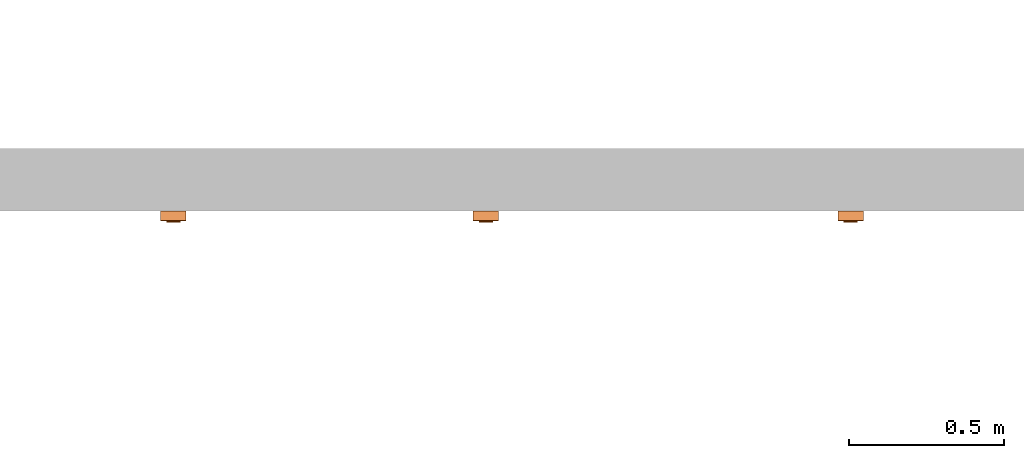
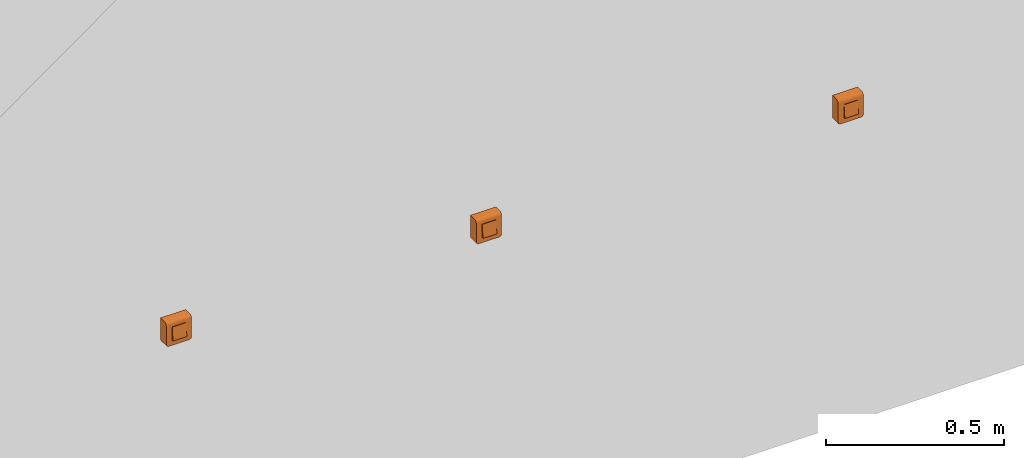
# One storey, part 128 of 197: 3 proxies.
"""IFC2X3 building model written with IfcOpenShell, lengths in metres."""

from ifc_helpers import new_model, entity, si_unit, converted_unit, direction, frame, origin, place, context, subcontext, project, spatial, faceted_brep, source, transform, mapped, material, material_list, type_object, type_shapes, element, save


model = new_model("IFC2X3")

# Units and contexts
model_context = context("Model", 3, precision=1e-05, world=origin(), true_north=direction((6.123031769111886e-17, 1.0)))
body_context = subcontext(model_context, "Body", "Model", "MODEL_VIEW")
ifc_project = project(units=[si_unit("LENGTHUNIT", "METRE"), converted_unit("PLANEANGLEUNIT", "DEGREE", entity("IfcPlaneAngleMeasure", 0.017453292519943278), si_unit("PLANEANGLEUNIT", "RADIAN"), dimensions=[0, 0, 0, 0, 0, 0, 0]), si_unit("AREAUNIT", "SQUARE_METRE")], contexts=[model_context])

# Site, building, storey
site_placement = place(None, origin())
site = spatial("IfcSite", under=ifc_project, at=site_placement, Name="Default", CompositionType="ELEMENT")
building_placement = place(site_placement, origin())
building = spatial("IfcBuilding", under=site, at=building_placement, CompositionType="ELEMENT")
storey_placement = place(building_placement, origin())
storey = spatial("IfcBuildingStorey", under=building, at=storey_placement, Name="Niveau 0", CompositionType="ELEMENT", Elevation=0.0)

# Proxies
ifc_material_1 = material(Name="BETCE-DOITGT-BLANC")
ifc_material_2 = material(Name="BETCE-CADRE-BLANC")
ifc_material_3 = material(Name="BETCE-ENJOLIVEUR-BLANC")
ifc_material_list = material_list([ifc_material_1, ifc_material_2, ifc_material_3])
building_element_proxy_type_1 = type_object("IfcBuildingElementProxyType", Name="Interrupteur double saillie:Double bouton poussoir", PredefinedType="NOTDEFINED", material=ifc_material_list)
shared_shape_1 = source(origin(), body_context, "Body", "Brep", [
    faceted_brep([(0.0, -0.033499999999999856, 0.022499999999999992), (0.0, -0.03799999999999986, -0.022500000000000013), (0.022499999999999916, -0.037999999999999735, -0.022500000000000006), (0.022499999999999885, -0.03349999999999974, 0.022499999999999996), (0.0, -0.02299999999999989, -0.022500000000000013), (0.0, -0.02299999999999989, 0.022499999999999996), (0.022499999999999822, -0.02299999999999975, 0.022499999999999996), (0.022499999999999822, -0.02299999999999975, -0.022500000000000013)], [[[0, 1, 2, 3]], [[4, 5, 6, 7]], [[5, 4, 1, 0]], [[6, 5, 0, 3]], [[7, 6, 3, 2]], [[4, 7, 2, 1]]]),
    faceted_brep([(0.04099999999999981, -0.023, 0.04092306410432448), (-0.04100000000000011, -0.023000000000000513, 0.04092306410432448), (-0.04100000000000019, -0.023000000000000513, -0.03299999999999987), (-0.040727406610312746, -0.023000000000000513, -0.03507055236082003), (-0.039928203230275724, -0.023000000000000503, -0.03699999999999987), (-0.038656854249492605, -0.0230000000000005, -0.038656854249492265), (-0.037000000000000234, -0.023000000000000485, -0.03992820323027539), (-0.0350705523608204, -0.023000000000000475, -0.04072740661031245), (-0.03300000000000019, -0.02300000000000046, -0.040999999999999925), (0.032999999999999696, -0.02300000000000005, -0.040999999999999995), (0.03507055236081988, -0.023000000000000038, -0.04072740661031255), (0.03699999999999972, -0.023000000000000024, -0.03992820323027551), (0.0386568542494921, -0.023000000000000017, -0.0386568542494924), (0.03992820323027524, -0.023000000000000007, -0.037000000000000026), (0.040727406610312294, -0.023000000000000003, -0.035070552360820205), (0.04099999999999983, -0.023, -0.032999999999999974), (-0.041000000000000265, 0.0, -0.03299999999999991), (-0.04100000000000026, 0.0, 0.04092306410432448), (0.04099999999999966, 0.0, 0.04092306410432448), (0.04099999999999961, 0.0, -0.03299999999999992), (0.04072740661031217, 0.0, -0.0350705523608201), (0.03992820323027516, 0.0, -0.036999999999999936), (0.038656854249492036, 0.0, -0.038656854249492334), (0.03699999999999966, 0.0, -0.039928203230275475), (0.03507055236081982, 0.0, -0.040727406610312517), (0.032999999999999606, 0.0, -0.04099999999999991), (-0.033000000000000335, 0.0, -0.040999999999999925), (-0.035070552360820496, 0.0, -0.04072740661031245), (-0.03700000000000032, 0.0, -0.039928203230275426), (-0.0386568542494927, 0.0, -0.0386568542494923), (-0.03992820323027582, 0.0, -0.036999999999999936), (-0.04072740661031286, 0.0, -0.035070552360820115)], [[[0, 1, 2, 3, 4, 5, 6, 7, 8, 9, 10, 11, 12, 13, 14, 15]], [[16, 17, 18, 19, 20, 21, 22, 23, 24, 25, 26, 27, 28, 29, 30, 31]], [[2, 1, 17, 16]], [[9, 8, 26, 25]], [[0, 15, 19, 18]], [[1, 0, 18, 17]], [[26, 8, 7, 27]], [[27, 7, 6, 28]], [[28, 6, 5, 29]], [[30, 4, 3, 31]], [[31, 3, 2, 16]], [[29, 5, 4, 30]], [[20, 19, 15, 14]], [[21, 20, 14, 13]], [[22, 21, 13, 12]], [[23, 22, 12, 11]], [[24, 23, 11, 10]], [[25, 24, 10, 9]]]),
    faceted_brep([(-0.022500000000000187, -0.02299999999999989, -0.022500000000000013), (-0.022500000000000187, -0.02299999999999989, 0.022499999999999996), (0.0, -0.02299999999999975, 0.022499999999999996), (0.0, -0.02299999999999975, -0.022500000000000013), (-0.022500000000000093, -0.037999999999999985, -0.022500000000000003), (-0.02250000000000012, -0.03349999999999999, 0.022499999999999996), (0.0, -0.03349999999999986, 0.022499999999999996), (0.0, -0.037999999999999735, -0.022500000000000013)], [[[0, 1, 2, 3]], [[1, 0, 4, 5]], [[2, 1, 5, 6]], [[3, 2, 6, 7]], [[0, 3, 7, 4]], [[5, 4, 7, 6]]]),
    faceted_brep([(0.04099999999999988, -0.03199999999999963, -0.03299999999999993), (0.04099999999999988, -0.03199999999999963, 0.0319999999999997), (0.022499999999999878, -0.031999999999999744, -0.022500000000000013), (0.032999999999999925, -0.03199999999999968, -0.040999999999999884), (0.03507055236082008, -0.031999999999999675, -0.040727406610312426), (0.040727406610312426, -0.03199999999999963, -0.03507055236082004), (0.02249999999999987, -0.031999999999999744, 0.022499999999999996), (-0.022500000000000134, -0.03200000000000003, 0.022499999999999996), (-0.04100000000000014, -0.03200000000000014, 0.0319999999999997), (-0.022500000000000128, -0.03200000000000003, -0.022500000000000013), (-0.04100000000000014, -0.03200000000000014, -0.03299999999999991), (-0.03300000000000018, -0.03200000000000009, -0.04099999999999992), (-0.03507055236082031, -0.032000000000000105, -0.04072740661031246), (-0.040727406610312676, -0.03200000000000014, -0.03507055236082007), (-0.03700000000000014, -0.03200000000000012, -0.03992820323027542), (-0.039928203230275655, -0.03200000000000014, -0.036999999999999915), (-0.038656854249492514, -0.032000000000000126, -0.03865685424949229), (0.036999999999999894, -0.03199999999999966, -0.039928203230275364), (0.03992820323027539, -0.03199999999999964, -0.03699999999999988), (0.038656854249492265, -0.03199999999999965, -0.038656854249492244), (-0.04100000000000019, -0.02300000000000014, -0.03299999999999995), (-0.041000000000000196, -0.02300000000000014, 0.041000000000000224), (-0.02250000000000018, -0.023000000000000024, 0.022499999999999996), (-0.02250000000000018, -0.023000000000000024, -0.022500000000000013), (-0.03300000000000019, -0.023000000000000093, -0.04099999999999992), (-0.04072740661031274, -0.02300000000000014, -0.03507055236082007), (0.02249999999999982, -0.022999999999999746, 0.022499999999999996), (0.040999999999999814, -0.022999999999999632, 0.041000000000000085), (0.04099999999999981, -0.022999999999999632, -0.032999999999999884), (0.022499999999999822, -0.022999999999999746, -0.022500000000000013), (0.03299999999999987, -0.022999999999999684, -0.040999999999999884), (0.040727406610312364, -0.022999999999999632, -0.03507055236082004), (0.035070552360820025, -0.02299999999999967, -0.040727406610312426), (0.039928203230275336, -0.02299999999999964, -0.03699999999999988), (0.03699999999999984, -0.022999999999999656, -0.039928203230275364), (0.03865685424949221, -0.022999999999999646, -0.038656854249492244), (-0.035070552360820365, -0.023000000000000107, -0.04072740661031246), (-0.039928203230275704, -0.023000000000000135, -0.036999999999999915), (-0.03700000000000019, -0.023000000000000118, -0.03992820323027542), (-0.03865685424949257, -0.023000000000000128, -0.03865685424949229), (0.040999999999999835, -0.025329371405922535, 0.04069333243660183), (0.04099999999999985, -0.027499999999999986, 0.039794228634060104), (0.040999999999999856, -0.029363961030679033, 0.038363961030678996), (0.04099999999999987, -0.030794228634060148, 0.03649999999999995), (0.04099999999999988, -0.03169333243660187, 0.03432937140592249), (-0.04100000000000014, -0.03169333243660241, 0.034329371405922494), (-0.04100000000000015, -0.03079422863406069, 0.03649999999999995), (-0.041000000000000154, -0.02936396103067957, 0.03836396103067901), (-0.04100000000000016, -0.027500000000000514, 0.039794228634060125), (-0.041000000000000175, -0.02532937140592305, 0.04069333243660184)], [[[0, 1, 2]], [[3, 0, 2]], [[0, 3, 4]], [[5, 0, 4]], [[2, 1, 6]], [[1, 7, 6]], [[7, 1, 8]], [[9, 7, 8]], [[10, 9, 8]], [[11, 9, 10]], [[11, 10, 12]], [[12, 10, 13]], [[14, 12, 13]], [[15, 14, 13]], [[14, 15, 16]], [[9, 11, 3]], [[2, 9, 3]], [[5, 4, 17]], [[5, 17, 18]], [[19, 18, 17]], [[20, 21, 22]], [[23, 20, 22]], [[24, 20, 23]], [[25, 20, 24]], [[21, 26, 22]], [[26, 21, 27]], [[28, 26, 27]], [[29, 26, 28]], [[30, 29, 28]], [[30, 28, 31]], [[30, 31, 32]], [[31, 33, 32]], [[33, 34, 32]], [[34, 33, 35]], [[29, 30, 24]], [[25, 24, 36]], [[23, 29, 24]], [[37, 25, 36]], [[37, 36, 38]], [[39, 37, 38]], [[1, 0, 28, 27, 40, 41, 42, 43, 44]], [[31, 28, 0, 5]], [[33, 31, 5, 18]], [[35, 33, 18, 19]], [[34, 35, 19, 17]], [[32, 34, 17, 4]], [[30, 32, 4, 3]], [[24, 30, 3, 11]], [[36, 24, 11, 12]], [[38, 36, 12, 14]], [[39, 38, 14, 16]], [[37, 39, 16, 15]], [[25, 37, 15, 13]], [[20, 25, 13, 10]], [[21, 20, 10, 8, 45, 46, 47, 48, 49]], [[44, 43, 46, 45]], [[1, 44, 45, 8]], [[43, 42, 47, 46]], [[49, 48, 41, 40]], [[21, 49, 40, 27]], [[42, 41, 48, 47]], [[23, 22, 7, 9]], [[29, 23, 9, 2]], [[26, 29, 2, 6]], [[22, 26, 6, 7]]]),
])
type_shapes(building_element_proxy_type_1, [shared_shape_1])
proxy_1_placement = place(storey_placement, frame((-413.6934485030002, 116.01635778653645, 1.1)))
element("IfcBuildingElementProxy", 1, at=proxy_1_placement, inside=storey, type_object=building_element_proxy_type_1, material=ifc_material_list, Name="Interrupteur double saillie:Double bouton poussoir", ObjectType="Interrupteur double saillie:Double bouton poussoir", context=body_context, shape_type="MappedRepresentation", body=[
    mapped(shared_shape_1, transform((0.0, 0.0, 0.0), scale=1.0)),
])
building_element_proxy_type_2 = type_object("IfcBuildingElementProxyType", Name="Interrupteur double saillie:Double allumage", PredefinedType="NOTDEFINED", material=ifc_material_list)
shared_shape_2 = source(origin(), body_context, "Body", "Brep", [
    faceted_brep([(0.0, -0.033499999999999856, 0.022499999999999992), (0.0, -0.03799999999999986, -0.022500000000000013), (0.022499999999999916, -0.037999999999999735, -0.022500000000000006), (0.022499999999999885, -0.03349999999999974, 0.022499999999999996), (0.0, -0.02299999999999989, -0.022500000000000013), (0.0, -0.02299999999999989, 0.022499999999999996), (0.022499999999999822, -0.02299999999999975, 0.022499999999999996), (0.022499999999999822, -0.02299999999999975, -0.022500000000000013)], [[[0, 1, 2, 3]], [[4, 5, 6, 7]], [[5, 4, 1, 0]], [[6, 5, 0, 3]], [[7, 6, 3, 2]], [[4, 7, 2, 1]]]),
    faceted_brep([(0.04099999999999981, -0.023, 0.04092306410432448), (-0.04100000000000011, -0.023000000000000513, 0.04092306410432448), (-0.04100000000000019, -0.023000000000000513, -0.03299999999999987), (-0.040727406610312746, -0.023000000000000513, -0.03507055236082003), (-0.039928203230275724, -0.023000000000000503, -0.03699999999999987), (-0.038656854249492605, -0.0230000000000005, -0.038656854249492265), (-0.037000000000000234, -0.023000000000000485, -0.03992820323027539), (-0.0350705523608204, -0.023000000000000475, -0.04072740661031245), (-0.03300000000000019, -0.02300000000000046, -0.040999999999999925), (0.032999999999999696, -0.02300000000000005, -0.040999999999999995), (0.03507055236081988, -0.023000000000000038, -0.04072740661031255), (0.03699999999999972, -0.023000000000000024, -0.03992820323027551), (0.0386568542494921, -0.023000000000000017, -0.0386568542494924), (0.03992820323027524, -0.023000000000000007, -0.037000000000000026), (0.040727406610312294, -0.023000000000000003, -0.035070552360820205), (0.04099999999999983, -0.023, -0.032999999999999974), (-0.041000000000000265, 0.0, -0.03299999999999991), (-0.04100000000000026, 0.0, 0.04092306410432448), (0.04099999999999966, 0.0, 0.04092306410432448), (0.04099999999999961, 0.0, -0.03299999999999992), (0.04072740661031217, 0.0, -0.0350705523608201), (0.03992820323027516, 0.0, -0.036999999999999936), (0.038656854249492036, 0.0, -0.038656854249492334), (0.03699999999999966, 0.0, -0.039928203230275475), (0.03507055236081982, 0.0, -0.040727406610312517), (0.032999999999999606, 0.0, -0.04099999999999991), (-0.033000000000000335, 0.0, -0.040999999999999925), (-0.035070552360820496, 0.0, -0.04072740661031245), (-0.03700000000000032, 0.0, -0.039928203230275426), (-0.0386568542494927, 0.0, -0.0386568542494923), (-0.03992820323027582, 0.0, -0.036999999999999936), (-0.04072740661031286, 0.0, -0.035070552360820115)], [[[0, 1, 2, 3, 4, 5, 6, 7, 8, 9, 10, 11, 12, 13, 14, 15]], [[16, 17, 18, 19, 20, 21, 22, 23, 24, 25, 26, 27, 28, 29, 30, 31]], [[2, 1, 17, 16]], [[9, 8, 26, 25]], [[0, 15, 19, 18]], [[1, 0, 18, 17]], [[26, 8, 7, 27]], [[27, 7, 6, 28]], [[28, 6, 5, 29]], [[30, 4, 3, 31]], [[31, 3, 2, 16]], [[29, 5, 4, 30]], [[20, 19, 15, 14]], [[21, 20, 14, 13]], [[22, 21, 13, 12]], [[23, 22, 12, 11]], [[24, 23, 11, 10]], [[25, 24, 10, 9]]]),
    faceted_brep([(-0.022500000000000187, -0.02299999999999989, -0.022500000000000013), (-0.022500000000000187, -0.02299999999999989, 0.022499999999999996), (0.0, -0.02299999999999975, 0.022499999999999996), (0.0, -0.02299999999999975, -0.022500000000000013), (-0.022500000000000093, -0.037999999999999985, -0.022500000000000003), (-0.02250000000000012, -0.03349999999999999, 0.022499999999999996), (0.0, -0.03349999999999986, 0.022499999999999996), (0.0, -0.037999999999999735, -0.022500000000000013)], [[[0, 1, 2, 3]], [[1, 0, 4, 5]], [[2, 1, 5, 6]], [[3, 2, 6, 7]], [[0, 3, 7, 4]], [[5, 4, 7, 6]]]),
    faceted_brep([(0.04099999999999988, -0.03199999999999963, -0.03299999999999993), (0.04099999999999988, -0.03199999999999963, 0.0319999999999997), (0.022499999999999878, -0.031999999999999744, -0.022500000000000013), (0.032999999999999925, -0.03199999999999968, -0.040999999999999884), (0.03507055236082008, -0.031999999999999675, -0.040727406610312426), (0.040727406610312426, -0.03199999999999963, -0.03507055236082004), (0.02249999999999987, -0.031999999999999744, 0.022499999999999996), (-0.022500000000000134, -0.03200000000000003, 0.022499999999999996), (-0.04100000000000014, -0.03200000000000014, 0.0319999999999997), (-0.022500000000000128, -0.03200000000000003, -0.022500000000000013), (-0.04100000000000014, -0.03200000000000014, -0.03299999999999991), (-0.03300000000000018, -0.03200000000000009, -0.04099999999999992), (-0.03507055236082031, -0.032000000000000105, -0.04072740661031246), (-0.040727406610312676, -0.03200000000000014, -0.03507055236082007), (-0.03700000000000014, -0.03200000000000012, -0.03992820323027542), (-0.039928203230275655, -0.03200000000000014, -0.036999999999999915), (-0.038656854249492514, -0.032000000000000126, -0.03865685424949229), (0.036999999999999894, -0.03199999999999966, -0.039928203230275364), (0.03992820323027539, -0.03199999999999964, -0.03699999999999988), (0.038656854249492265, -0.03199999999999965, -0.038656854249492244), (-0.04100000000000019, -0.02300000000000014, -0.03299999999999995), (-0.041000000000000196, -0.02300000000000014, 0.041000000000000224), (-0.02250000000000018, -0.023000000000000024, 0.022499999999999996), (-0.02250000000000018, -0.023000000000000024, -0.022500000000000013), (-0.03300000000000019, -0.023000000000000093, -0.04099999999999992), (-0.04072740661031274, -0.02300000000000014, -0.03507055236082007), (0.02249999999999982, -0.022999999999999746, 0.022499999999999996), (0.040999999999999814, -0.022999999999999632, 0.041000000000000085), (0.04099999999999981, -0.022999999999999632, -0.032999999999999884), (0.022499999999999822, -0.022999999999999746, -0.022500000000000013), (0.03299999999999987, -0.022999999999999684, -0.040999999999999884), (0.040727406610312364, -0.022999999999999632, -0.03507055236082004), (0.035070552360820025, -0.02299999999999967, -0.040727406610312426), (0.039928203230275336, -0.02299999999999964, -0.03699999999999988), (0.03699999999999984, -0.022999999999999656, -0.039928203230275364), (0.03865685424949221, -0.022999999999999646, -0.038656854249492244), (-0.035070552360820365, -0.023000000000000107, -0.04072740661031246), (-0.039928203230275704, -0.023000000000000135, -0.036999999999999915), (-0.03700000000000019, -0.023000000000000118, -0.03992820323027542), (-0.03865685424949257, -0.023000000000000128, -0.03865685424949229), (0.040999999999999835, -0.025329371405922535, 0.04069333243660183), (0.04099999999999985, -0.027499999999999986, 0.039794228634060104), (0.040999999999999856, -0.029363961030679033, 0.038363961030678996), (0.04099999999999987, -0.030794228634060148, 0.03649999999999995), (0.04099999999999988, -0.03169333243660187, 0.03432937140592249), (-0.04100000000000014, -0.03169333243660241, 0.034329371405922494), (-0.04100000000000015, -0.03079422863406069, 0.03649999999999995), (-0.041000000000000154, -0.02936396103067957, 0.03836396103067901), (-0.04100000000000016, -0.027500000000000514, 0.039794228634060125), (-0.041000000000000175, -0.02532937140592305, 0.04069333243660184)], [[[0, 1, 2]], [[3, 0, 2]], [[0, 3, 4]], [[5, 0, 4]], [[2, 1, 6]], [[1, 7, 6]], [[7, 1, 8]], [[9, 7, 8]], [[10, 9, 8]], [[11, 9, 10]], [[11, 10, 12]], [[12, 10, 13]], [[14, 12, 13]], [[15, 14, 13]], [[14, 15, 16]], [[9, 11, 3]], [[2, 9, 3]], [[5, 4, 17]], [[5, 17, 18]], [[19, 18, 17]], [[20, 21, 22]], [[23, 20, 22]], [[24, 20, 23]], [[25, 20, 24]], [[21, 26, 22]], [[26, 21, 27]], [[28, 26, 27]], [[29, 26, 28]], [[30, 29, 28]], [[30, 28, 31]], [[30, 31, 32]], [[31, 33, 32]], [[33, 34, 32]], [[34, 33, 35]], [[29, 30, 24]], [[25, 24, 36]], [[23, 29, 24]], [[37, 25, 36]], [[37, 36, 38]], [[39, 37, 38]], [[1, 0, 28, 27, 40, 41, 42, 43, 44]], [[31, 28, 0, 5]], [[33, 31, 5, 18]], [[35, 33, 18, 19]], [[34, 35, 19, 17]], [[32, 34, 17, 4]], [[30, 32, 4, 3]], [[24, 30, 3, 11]], [[36, 24, 11, 12]], [[38, 36, 12, 14]], [[39, 38, 14, 16]], [[37, 39, 16, 15]], [[25, 37, 15, 13]], [[20, 25, 13, 10]], [[21, 20, 10, 8, 45, 46, 47, 48, 49]], [[44, 43, 46, 45]], [[1, 44, 45, 8]], [[43, 42, 47, 46]], [[49, 48, 41, 40]], [[21, 49, 40, 27]], [[42, 41, 48, 47]], [[23, 22, 7, 9]], [[29, 23, 9, 2]], [[26, 29, 2, 6]], [[22, 26, 6, 7]]]),
])
type_shapes(building_element_proxy_type_2, [shared_shape_2])
proxy_2_placement = place(storey_placement, frame((-412.6884485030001, 116.01635778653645, 1.1)))
element("IfcBuildingElementProxy", 2, at=proxy_2_placement, inside=storey, type_object=building_element_proxy_type_2, material=ifc_material_list, Name="Interrupteur double saillie:Double allumage", ObjectType="Interrupteur double saillie:Double allumage", context=body_context, shape_type="MappedRepresentation", body=[
    mapped(shared_shape_2, transform((0.0, 0.0, 0.0), scale=1.0)),
])
building_element_proxy_type_3 = type_object("IfcBuildingElementProxyType", Name="Interrupteur double saillie:Double va et vient", PredefinedType="NOTDEFINED", material=ifc_material_list)
shared_shape_3 = source(origin(), body_context, "Body", "Brep", [
    faceted_brep([(0.0, -0.033499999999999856, 0.022499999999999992), (0.0, -0.03799999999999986, -0.022500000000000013), (0.022499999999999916, -0.037999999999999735, -0.022500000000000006), (0.022499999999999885, -0.03349999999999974, 0.022499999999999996), (0.0, -0.02299999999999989, -0.022500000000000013), (0.0, -0.02299999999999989, 0.022499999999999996), (0.022499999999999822, -0.02299999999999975, 0.022499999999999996), (0.022499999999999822, -0.02299999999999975, -0.022500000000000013)], [[[0, 1, 2, 3]], [[4, 5, 6, 7]], [[5, 4, 1, 0]], [[6, 5, 0, 3]], [[7, 6, 3, 2]], [[4, 7, 2, 1]]]),
    faceted_brep([(0.04099999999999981, -0.023, 0.04092306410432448), (-0.04100000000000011, -0.023000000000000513, 0.04092306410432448), (-0.04100000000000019, -0.023000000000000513, -0.03299999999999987), (-0.040727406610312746, -0.023000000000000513, -0.03507055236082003), (-0.039928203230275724, -0.023000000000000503, -0.03699999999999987), (-0.038656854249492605, -0.0230000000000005, -0.038656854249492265), (-0.037000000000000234, -0.023000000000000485, -0.03992820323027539), (-0.0350705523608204, -0.023000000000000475, -0.04072740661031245), (-0.03300000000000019, -0.02300000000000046, -0.040999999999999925), (0.032999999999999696, -0.02300000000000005, -0.040999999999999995), (0.03507055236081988, -0.023000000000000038, -0.04072740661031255), (0.03699999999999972, -0.023000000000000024, -0.03992820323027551), (0.0386568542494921, -0.023000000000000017, -0.0386568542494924), (0.03992820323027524, -0.023000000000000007, -0.037000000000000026), (0.040727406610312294, -0.023000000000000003, -0.035070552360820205), (0.04099999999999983, -0.023, -0.032999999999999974), (-0.041000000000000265, 0.0, -0.03299999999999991), (-0.04100000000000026, 0.0, 0.04092306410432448), (0.04099999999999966, 0.0, 0.04092306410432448), (0.04099999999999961, 0.0, -0.03299999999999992), (0.04072740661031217, 0.0, -0.0350705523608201), (0.03992820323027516, 0.0, -0.036999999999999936), (0.038656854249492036, 0.0, -0.038656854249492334), (0.03699999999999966, 0.0, -0.039928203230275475), (0.03507055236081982, 0.0, -0.040727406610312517), (0.032999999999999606, 0.0, -0.04099999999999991), (-0.033000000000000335, 0.0, -0.040999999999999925), (-0.035070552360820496, 0.0, -0.04072740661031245), (-0.03700000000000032, 0.0, -0.039928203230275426), (-0.0386568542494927, 0.0, -0.0386568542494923), (-0.03992820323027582, 0.0, -0.036999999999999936), (-0.04072740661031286, 0.0, -0.035070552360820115)], [[[0, 1, 2, 3, 4, 5, 6, 7, 8, 9, 10, 11, 12, 13, 14, 15]], [[16, 17, 18, 19, 20, 21, 22, 23, 24, 25, 26, 27, 28, 29, 30, 31]], [[2, 1, 17, 16]], [[9, 8, 26, 25]], [[0, 15, 19, 18]], [[1, 0, 18, 17]], [[26, 8, 7, 27]], [[27, 7, 6, 28]], [[28, 6, 5, 29]], [[30, 4, 3, 31]], [[31, 3, 2, 16]], [[29, 5, 4, 30]], [[20, 19, 15, 14]], [[21, 20, 14, 13]], [[22, 21, 13, 12]], [[23, 22, 12, 11]], [[24, 23, 11, 10]], [[25, 24, 10, 9]]]),
    faceted_brep([(-0.022500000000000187, -0.02299999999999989, -0.022500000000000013), (-0.022500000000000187, -0.02299999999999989, 0.022499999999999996), (0.0, -0.02299999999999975, 0.022499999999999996), (0.0, -0.02299999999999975, -0.022500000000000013), (-0.022500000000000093, -0.037999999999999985, -0.022500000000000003), (-0.02250000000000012, -0.03349999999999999, 0.022499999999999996), (0.0, -0.03349999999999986, 0.022499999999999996), (0.0, -0.037999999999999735, -0.022500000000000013)], [[[0, 1, 2, 3]], [[1, 0, 4, 5]], [[2, 1, 5, 6]], [[3, 2, 6, 7]], [[0, 3, 7, 4]], [[5, 4, 7, 6]]]),
    faceted_brep([(0.04099999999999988, -0.03199999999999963, -0.03299999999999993), (0.04099999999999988, -0.03199999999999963, 0.0319999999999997), (0.022499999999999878, -0.031999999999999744, -0.022500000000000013), (0.032999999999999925, -0.03199999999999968, -0.040999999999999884), (0.03507055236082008, -0.031999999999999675, -0.040727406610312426), (0.040727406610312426, -0.03199999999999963, -0.03507055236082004), (0.02249999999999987, -0.031999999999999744, 0.022499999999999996), (-0.022500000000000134, -0.03200000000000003, 0.022499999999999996), (-0.04100000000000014, -0.03200000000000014, 0.0319999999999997), (-0.022500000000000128, -0.03200000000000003, -0.022500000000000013), (-0.04100000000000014, -0.03200000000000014, -0.03299999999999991), (-0.03300000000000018, -0.03200000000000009, -0.04099999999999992), (-0.03507055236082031, -0.032000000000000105, -0.04072740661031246), (-0.040727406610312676, -0.03200000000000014, -0.03507055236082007), (-0.03700000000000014, -0.03200000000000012, -0.03992820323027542), (-0.039928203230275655, -0.03200000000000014, -0.036999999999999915), (-0.038656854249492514, -0.032000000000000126, -0.03865685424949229), (0.036999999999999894, -0.03199999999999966, -0.039928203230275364), (0.03992820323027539, -0.03199999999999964, -0.03699999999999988), (0.038656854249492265, -0.03199999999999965, -0.038656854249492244), (-0.04100000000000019, -0.02300000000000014, -0.03299999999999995), (-0.041000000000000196, -0.02300000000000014, 0.041000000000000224), (-0.02250000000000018, -0.023000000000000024, 0.022499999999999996), (-0.02250000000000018, -0.023000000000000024, -0.022500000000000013), (-0.03300000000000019, -0.023000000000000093, -0.04099999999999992), (-0.04072740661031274, -0.02300000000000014, -0.03507055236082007), (0.02249999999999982, -0.022999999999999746, 0.022499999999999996), (0.040999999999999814, -0.022999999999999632, 0.041000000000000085), (0.04099999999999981, -0.022999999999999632, -0.032999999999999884), (0.022499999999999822, -0.022999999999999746, -0.022500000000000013), (0.03299999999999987, -0.022999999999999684, -0.040999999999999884), (0.040727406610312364, -0.022999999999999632, -0.03507055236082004), (0.035070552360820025, -0.02299999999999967, -0.040727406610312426), (0.039928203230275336, -0.02299999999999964, -0.03699999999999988), (0.03699999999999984, -0.022999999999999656, -0.039928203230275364), (0.03865685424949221, -0.022999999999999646, -0.038656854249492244), (-0.035070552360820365, -0.023000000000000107, -0.04072740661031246), (-0.039928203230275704, -0.023000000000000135, -0.036999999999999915), (-0.03700000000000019, -0.023000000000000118, -0.03992820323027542), (-0.03865685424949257, -0.023000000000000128, -0.03865685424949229), (0.040999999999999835, -0.025329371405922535, 0.04069333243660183), (0.04099999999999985, -0.027499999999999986, 0.039794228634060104), (0.040999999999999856, -0.029363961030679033, 0.038363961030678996), (0.04099999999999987, -0.030794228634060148, 0.03649999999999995), (0.04099999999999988, -0.03169333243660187, 0.03432937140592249), (-0.04100000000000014, -0.03169333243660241, 0.034329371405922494), (-0.04100000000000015, -0.03079422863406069, 0.03649999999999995), (-0.041000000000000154, -0.02936396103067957, 0.03836396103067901), (-0.04100000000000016, -0.027500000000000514, 0.039794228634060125), (-0.041000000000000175, -0.02532937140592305, 0.04069333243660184)], [[[0, 1, 2]], [[3, 0, 2]], [[0, 3, 4]], [[5, 0, 4]], [[2, 1, 6]], [[1, 7, 6]], [[7, 1, 8]], [[9, 7, 8]], [[10, 9, 8]], [[11, 9, 10]], [[11, 10, 12]], [[12, 10, 13]], [[14, 12, 13]], [[15, 14, 13]], [[14, 15, 16]], [[9, 11, 3]], [[2, 9, 3]], [[5, 4, 17]], [[5, 17, 18]], [[19, 18, 17]], [[20, 21, 22]], [[23, 20, 22]], [[24, 20, 23]], [[25, 20, 24]], [[21, 26, 22]], [[26, 21, 27]], [[28, 26, 27]], [[29, 26, 28]], [[30, 29, 28]], [[30, 28, 31]], [[30, 31, 32]], [[31, 33, 32]], [[33, 34, 32]], [[34, 33, 35]], [[29, 30, 24]], [[25, 24, 36]], [[23, 29, 24]], [[37, 25, 36]], [[37, 36, 38]], [[39, 37, 38]], [[1, 0, 28, 27, 40, 41, 42, 43, 44]], [[31, 28, 0, 5]], [[33, 31, 5, 18]], [[35, 33, 18, 19]], [[34, 35, 19, 17]], [[32, 34, 17, 4]], [[30, 32, 4, 3]], [[24, 30, 3, 11]], [[36, 24, 11, 12]], [[38, 36, 12, 14]], [[39, 38, 14, 16]], [[37, 39, 16, 15]], [[25, 37, 15, 13]], [[20, 25, 13, 10]], [[21, 20, 10, 8, 45, 46, 47, 48, 49]], [[44, 43, 46, 45]], [[1, 44, 45, 8]], [[43, 42, 47, 46]], [[49, 48, 41, 40]], [[21, 49, 40, 27]], [[42, 41, 48, 47]], [[23, 22, 7, 9]], [[29, 23, 9, 2]], [[26, 29, 2, 6]], [[22, 26, 6, 7]]]),
])
type_shapes(building_element_proxy_type_3, [shared_shape_3])
proxy_3_placement = place(storey_placement, frame((-411.5154485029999, 116.01635778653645, 1.1)))
element("IfcBuildingElementProxy", 3, at=proxy_3_placement, inside=storey, type_object=building_element_proxy_type_3, material=ifc_material_list, Name="Interrupteur double saillie:Double va et vient", ObjectType="Interrupteur double saillie:Double va et vient", context=body_context, shape_type="MappedRepresentation", body=[
    mapped(shared_shape_3, transform((0.0, 0.0, 0.0), scale=1.0)),
])

save(model, "model.ifc")
